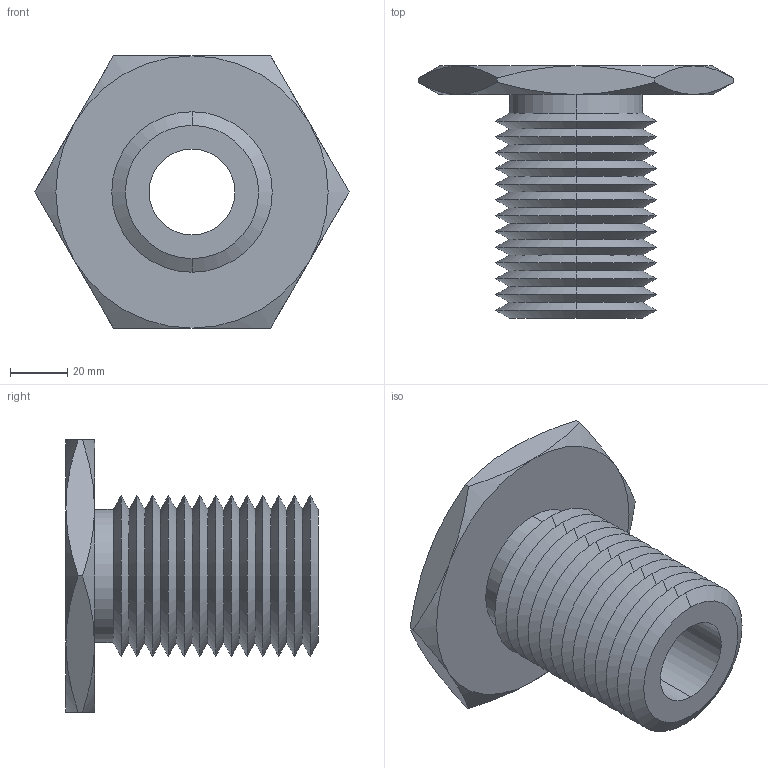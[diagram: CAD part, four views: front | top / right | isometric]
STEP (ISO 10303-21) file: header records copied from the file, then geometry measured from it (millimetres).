
FILE_DESCRIPTION (( 'STEP AP203' ), '1' );
FILE_NAME ('63302.W0056_M30x3,5.step', '2013-12-08T11:21:50', ( 'User' ), ( '' ), 'SwSTEP 2.0', 'SolidWorks 2009', '' );
FILE_SCHEMA (( 'CONFIG_CONTROL_DESIGN' ));
Length unit declared in the file: millimetre
Products named in the file (1): 63302.W0056_M30x3,5
Bounding box: 109.7 x 88 x 95 mm (x, y, z)
Volume: 172344.1 mm3; surface area: 48859.9 mm2
Topology: 1 solids, 1 shells, 79 faces, 162 edges, 86 vertices
Faces by surface type: cone 66, plane 9, cylinder 4
Entity records: 2271 total; most frequent: CARTESIAN_POINT 544, DIRECTION 372, ORIENTED_EDGE 324, EDGE_CURVE 162, AXIS2_PLACEMENT_3D 154, VERTEX_POINT 86, EDGE_LOOP 82, ADVANCED_FACE 79
